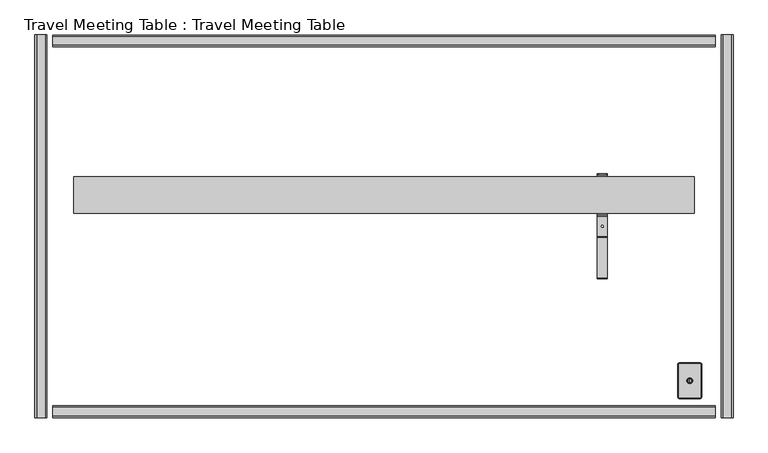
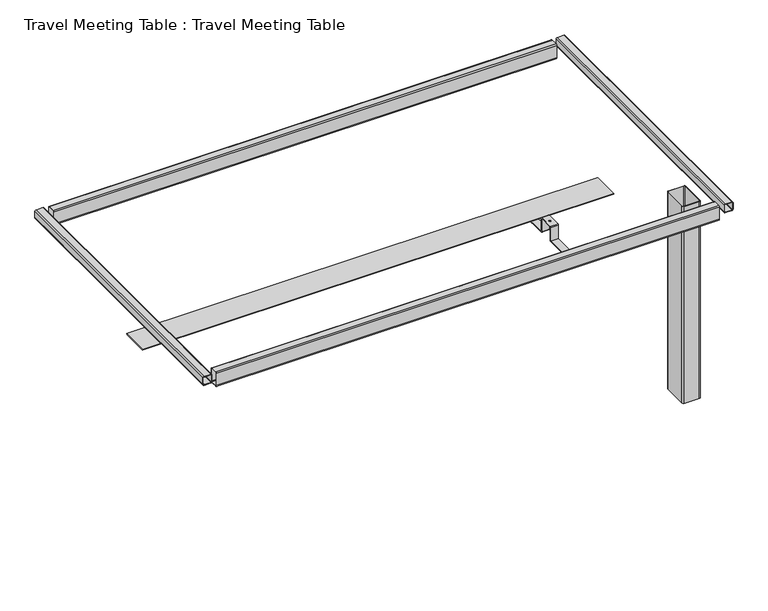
"""IFC4 building model written with IfcOpenShell, lengths in millimetres: furniture geometry, Travel Meeting Table : Travel Meeting Table."""

from ifc_helpers import new_model, si_unit, point, frame, frame_2d, origin, place, context, project, spatial, polyline, circle_curve, trimmed, segment, composite_curve, outline, extrude, source, transform, mapped, element, save
from ifc_brep_helpers import plane_surface, cylinder_surface, revolved_surface, advanced_brep


def travel_meeting_table_travel_meeting_table_b9e7bf96(model_context):
    return source(origin(), model_context, "Body", "SolidModel", [
        extrude(outline(composite_curve([segment(polyline([(668.9570653, 874.999984), (691.00002, 874.999984)]), True, "CONTINUOUS"), segment(trimmed(circle_curve(frame_2d((691.00002, 870.999984)), 4.0), [point((691.00002, 874.999984))], [point((695.00002, 870.999984))], False, "CARTESIAN"), True, "CONTINUOUS"), segment(polyline([(695.00002, 870.999984), (695.00002, 848.9999846)]), True, "CONTINUOUS"), segment(trimmed(circle_curve(frame_2d((691.00002, 848.9999846)), 4.0), [point((695.00002, 848.9999846))], [point((691.00002, 844.9999846))], False, "CARTESIAN"), True, "CONTINUOUS"), segment(polyline([(691.00002, 844.9999846), (669.0000343, 844.9999846)]), True, "CONTINUOUS"), segment(trimmed(circle_curve(frame_2d((669.0000343, 848.9999846)), 4.0), [point((669.0000343, 844.9999846))], [point((665.0000343, 848.9999846))], False, "CARTESIAN"), True, "CONTINUOUS"), segment(polyline([(665.0000343, 848.9999846), (665.0000343, 871.042953)]), True, "CONTINUOUS"), segment(trimmed(circle_curve(frame_2d((668.9570653, 871.042953)), 3.957031), [point((665.0000343, 871.042953))], [point((668.9570653, 874.999984))], False, "CARTESIAN"), True, "CONTINUOUS")], self_intersect=False), holes=[composite_curve([segment(trimmed(circle_curve(frame_2d((668.9570653, 871.042953)), 1.957031), [point((668.9570653, 872.999984))], [point((667.0000343, 871.042953))], True, "CARTESIAN"), True, "CONTINUOUS"), segment(polyline([(667.0000343, 871.042953), (667.0000343, 848.9999846)]), True, "CONTINUOUS"), segment(trimmed(circle_curve(frame_2d((669.0000343, 848.9999846)), 2.0), [point((667.0000343, 848.9999846))], [point((669.0000343, 846.9999846))], True, "CARTESIAN"), True, "CONTINUOUS"), segment(polyline([(669.0000343, 846.9999846), (691.00002, 846.9999846)]), True, "CONTINUOUS"), segment(trimmed(circle_curve(frame_2d((691.00002, 848.9999846)), 2.0), [point((691.00002, 846.9999846))], [point((693.00002, 848.9999846))], True, "CARTESIAN"), True, "CONTINUOUS"), segment(polyline([(693.00002, 848.9999846), (693.00002, 870.999984)]), True, "CONTINUOUS"), segment(trimmed(circle_curve(frame_2d((691.00002, 870.999984)), 2.0), [point((693.00002, 870.999984))], [point((691.00002, 872.999984))], True, "CARTESIAN"), True, "CONTINUOUS"), segment(polyline([(691.00002, 872.999984), (668.9570653, 872.999984)]), True, "CONTINUOUS")], self_intersect=False)]), frame((0.0, -480.0, 0.0), z_axis=(0.0, 1.0, 0.0), x_axis=(0.0, 0.0, 1.0)), (0.0, 0.0, 1.0), 960.0),
        extrude(outline(composite_curve([segment(trimmed(circle_curve(frame_2d((-475.7499794, 649.0000196)), 4.0), [point((-475.7499794, 645.0000196))], [point((-479.7499794, 649.0000196))], False, "CARTESIAN"), True, "CONTINUOUS"), segment(polyline([(-479.7499794, 649.0000196), (-479.7499794, 691.00002)]), True, "CONTINUOUS"), segment(trimmed(circle_curve(frame_2d((-475.7499794, 691.00002)), 4.0), [point((-479.7499794, 691.00002))], [point((-475.7499794, 695.00002))], False, "CARTESIAN"), True, "CONTINUOUS"), segment(polyline([(-475.7499794, 695.00002), (-453.7499937, 695.00002)]), True, "CONTINUOUS"), segment(trimmed(circle_curve(frame_2d((-453.7499937, 691.00002)), 4.0), [point((-453.7499937, 695.00002))], [point((-449.7499937, 691.00002))], False, "CARTESIAN"), True, "CONTINUOUS"), segment(polyline([(-449.7499937, 691.00002), (-449.7499937, 649.0000196)]), True, "CONTINUOUS"), segment(trimmed(circle_curve(frame_2d((-453.7499937, 649.0000196)), 4.0), [point((-449.7499937, 649.0000196))], [point((-453.7499937, 645.0000196))], False, "CARTESIAN"), True, "CONTINUOUS"), segment(polyline([(-453.7499937, 645.0000196), (-475.7499794, 645.0000196)]), True, "CONTINUOUS")], self_intersect=False), holes=[composite_curve([segment(polyline([(-475.7499794, 647.0000196), (-453.7499937, 647.0000196)]), True, "CONTINUOUS"), segment(trimmed(circle_curve(frame_2d((-453.7499937, 649.0000196)), 2.0), [point((-453.7499937, 647.0000196))], [point((-451.7499937, 649.0000196))], True, "CARTESIAN"), True, "CONTINUOUS"), segment(polyline([(-451.7499937, 649.0000196), (-451.7499937, 691.00002)]), True, "CONTINUOUS"), segment(trimmed(circle_curve(frame_2d((-453.7499937, 691.00002)), 2.0), [point((-451.7499937, 691.00002))], [point((-453.7499937, 693.00002))], True, "CARTESIAN"), True, "CONTINUOUS"), segment(polyline([(-453.7499937, 693.00002), (-475.7499794, 693.00002)]), True, "CONTINUOUS"), segment(trimmed(circle_curve(frame_2d((-475.7499794, 691.00002)), 2.0), [point((-475.7499794, 693.00002))], [point((-477.7499794, 691.00002))], True, "CARTESIAN"), True, "CONTINUOUS"), segment(polyline([(-477.7499794, 691.00002), (-477.7499794, 649.0000196)]), True, "CONTINUOUS"), segment(trimmed(circle_curve(frame_2d((-475.7499794, 649.0000196)), 2.0), [point((-477.7499794, 649.0000196))], [point((-475.7499794, 647.0000196))], True, "CARTESIAN"), True, "CONTINUOUS")], self_intersect=False)]), frame((-830.0, 0.0, 0.0), z_axis=(1.0, 0.0, 0.0), x_axis=(0.0, 1.0, 0.0)), (0.0, 0.0, 1.0), 1660.0),
        extrude(outline(composite_curve([segment(polyline([(668.9570653, -844.9999846), (691.00002, -844.9999846)]), True, "CONTINUOUS"), segment(trimmed(circle_curve(frame_2d((691.00002, -848.9999846)), 4.0), [point((691.00002, -844.9999846))], [point((695.00002, -848.9999846))], False, "CARTESIAN"), True, "CONTINUOUS"), segment(polyline([(695.00002, -848.9999846), (695.00002, -870.999984)]), True, "CONTINUOUS"), segment(trimmed(circle_curve(frame_2d((691.00002, -870.999984)), 4.0), [point((695.00002, -870.999984))], [point((691.00002, -874.999984))], False, "CARTESIAN"), True, "CONTINUOUS"), segment(polyline([(691.00002, -874.999984), (669.0000343, -874.999984)]), True, "CONTINUOUS"), segment(trimmed(circle_curve(frame_2d((669.0000343, -870.999984)), 4.0), [point((669.0000343, -874.999984))], [point((665.0000343, -870.999984))], False, "CARTESIAN"), True, "CONTINUOUS"), segment(polyline([(665.0000343, -870.999984), (665.0000343, -848.9570156)]), True, "CONTINUOUS"), segment(trimmed(circle_curve(frame_2d((668.9570653, -848.9570156)), 3.957031), [point((665.0000343, -848.9570156))], [point((668.9570653, -844.9999846))], False, "CARTESIAN"), True, "CONTINUOUS")], self_intersect=False), holes=[composite_curve([segment(trimmed(circle_curve(frame_2d((668.9570653, -848.9570156)), 1.957031), [point((668.9570653, -846.9999846))], [point((667.0000343, -848.9570156))], True, "CARTESIAN"), True, "CONTINUOUS"), segment(polyline([(667.0000343, -848.9570156), (667.0000343, -870.999984)]), True, "CONTINUOUS"), segment(trimmed(circle_curve(frame_2d((669.0000343, -870.999984)), 2.0), [point((667.0000343, -870.999984))], [point((669.0000343, -872.999984))], True, "CARTESIAN"), True, "CONTINUOUS"), segment(polyline([(669.0000343, -872.999984), (691.00002, -872.999984)]), True, "CONTINUOUS"), segment(trimmed(circle_curve(frame_2d((691.00002, -870.999984)), 2.0), [point((691.00002, -872.999984))], [point((693.00002, -870.999984))], True, "CARTESIAN"), True, "CONTINUOUS"), segment(polyline([(693.00002, -870.999984), (693.00002, -848.9999846)]), True, "CONTINUOUS"), segment(trimmed(circle_curve(frame_2d((691.00002, -848.9999846)), 2.0), [point((693.00002, -848.9999846))], [point((691.00002, -846.9999846))], True, "CARTESIAN"), True, "CONTINUOUS"), segment(polyline([(691.00002, -846.9999846), (668.9570653, -846.9999846)]), True, "CONTINUOUS")], self_intersect=False)]), frame((0.0, -480.0, 0.0), z_axis=(0.0, 1.0, 0.0), x_axis=(0.0, 0.0, 1.0)), (0.0, 0.0, 1.0), 960.0),
        extrude(outline(composite_curve([segment(trimmed(circle_curve(frame_2d((453.7499824, 649.0000196)), 4.0), [point((453.7499824, 645.0000196))], [point((449.7499824, 649.0000196))], False, "CARTESIAN"), True, "CONTINUOUS"), segment(polyline([(449.7499824, 649.0000196), (449.7499824, 691.00002)]), True, "CONTINUOUS"), segment(trimmed(circle_curve(frame_2d((453.7499824, 691.00002)), 4.0), [point((449.7499824, 691.00002))], [point((453.7499824, 695.00002))], False, "CARTESIAN"), True, "CONTINUOUS"), segment(polyline([(453.7499824, 695.00002), (475.7499681, 695.00002)]), True, "CONTINUOUS"), segment(trimmed(circle_curve(frame_2d((475.7499681, 691.00002)), 4.0), [point((475.7499681, 695.00002))], [point((479.7499681, 691.00002))], False, "CARTESIAN"), True, "CONTINUOUS"), segment(polyline([(479.7499681, 691.00002), (479.7499681, 649.0000196)]), True, "CONTINUOUS"), segment(trimmed(circle_curve(frame_2d((475.7499681, 649.0000196)), 4.0), [point((479.7499681, 649.0000196))], [point((475.7499681, 645.0000196))], False, "CARTESIAN"), True, "CONTINUOUS"), segment(polyline([(475.7499681, 645.0000196), (453.7499824, 645.0000196)]), True, "CONTINUOUS")], self_intersect=False), holes=[composite_curve([segment(polyline([(453.7499824, 647.0000196), (475.7499681, 647.0000196)]), True, "CONTINUOUS"), segment(trimmed(circle_curve(frame_2d((475.7499681, 649.0000196)), 2.0), [point((475.7499681, 647.0000196))], [point((477.7499681, 649.0000196))], True, "CARTESIAN"), True, "CONTINUOUS"), segment(polyline([(477.7499681, 649.0000196), (477.7499681, 691.00002)]), True, "CONTINUOUS"), segment(trimmed(circle_curve(frame_2d((475.7499681, 691.00002)), 2.0), [point((477.7499681, 691.00002))], [point((475.7499681, 693.00002))], True, "CARTESIAN"), True, "CONTINUOUS"), segment(polyline([(475.7499681, 693.00002), (453.7499824, 693.00002)]), True, "CONTINUOUS"), segment(trimmed(circle_curve(frame_2d((453.7499824, 691.00002)), 2.0), [point((453.7499824, 693.00002))], [point((451.7499824, 691.00002))], True, "CARTESIAN"), True, "CONTINUOUS"), segment(polyline([(451.7499824, 691.00002), (451.7499824, 649.0000196)]), True, "CONTINUOUS"), segment(trimmed(circle_curve(frame_2d((453.7499824, 649.0000196)), 2.0), [point((451.7499824, 649.0000196))], [point((453.7499824, 647.0000196))], True, "CARTESIAN"), True, "CONTINUOUS")], self_intersect=False)]), frame((-830.0, 0.0, 0.0), z_axis=(1.0, 0.0, 0.0), x_axis=(0.0, 1.0, 0.0)), (0.0, 0.0, 1.0), 1660.0),
        advanced_brep(
        [(796.3659522, -346.7334746, 695.0000198), (791.3659522, -341.7334746, 695.0000198), (741.3661261, -341.7334746, 695.0000198), (736.3661261, -346.7334746, 695.0000198), (736.3661261, -426.7334462, 695.0000198), (741.3661117, -431.7334317, 695.0000198), (791.3659522, -431.7334317, 695.0000198), (796.3659522, -426.7334317, 695.0000198), (738.3661261, -426.7334462, 695.0000198), (738.3661261, -346.7334746, 695.0000198), (741.3661261, -343.7334746, 695.0000198), (791.3659522, -343.7334746, 695.0000198), (794.3659522, -346.7334746, 695.0000198), (794.3659522, -426.7334317, 695.0000198), (791.3659522, -429.7334317, 695.0000198), (741.3661117, -429.7334317, 695.0000198), (796.3659522, -346.7334746, 8.4999967), (796.3659522, -426.7334317, 8.4999967), (791.3659522, -431.7334317, 8.4999967), (741.3661117, -431.7334317, 8.4999967), (736.3661261, -426.7334462, 8.4999967), (736.3661261, -346.7334746, 8.4999967), (741.3661261, -341.7334746, 8.4999967), (791.3659522, -341.7334746, 8.4999967), (738.3661261, -426.7334462, 8.4999967), (741.3661117, -429.7334317, 8.4999967), (791.3659522, -429.7334317, 8.4999967), (794.3659522, -426.7334317, 8.4999967), (794.3659522, -346.7334746, 8.4999967), (791.3659522, -343.7334746, 8.4999967), (741.3661261, -343.7334746, 8.4999967), (738.3661261, -346.7334746, 8.4999967), (738.3661261, -426.7334462, 17.6595378), (741.3661117, -429.7334317, 17.6595378), (741.3661117, -429.7334317, 21.9964673), (738.3661261, -426.7334462, 21.9964673), (791.3659522, -429.7334317, 17.6595378), (791.3659522, -429.7334317, 21.9964673), (794.3659522, -426.7334317, 17.6595378), (794.3659522, -426.7334317, 21.9964673), (794.3659522, -346.7334746, 17.6595378), (794.3659522, -346.7334746, 21.9964673), (791.3659522, -343.7334746, 17.6595378), (791.3659522, -343.7334746, 21.9964673), (741.3661261, -343.7334746, 17.6595378), (741.3661261, -343.7334746, 21.9964673), (738.3661261, -346.7334746, 17.6595378), (738.3661261, -346.7334746, 21.9964673), (766.3660392, -379.7271584, 21.9964673), (766.3660392, -393.7396752, 21.9964673), (766.3660392, -379.7271584, 17.6595378), (766.3660392, -393.7396752, 17.6595378)],
        [
            (0, 1, circle_curve(frame((791.3659522, -346.7334746, 695.0000198), z_axis=(0.0, 0.0, 1.0), x_axis=(-1.0, 0.0, 0.0)), 5.0)),
            (1, 2),
            (2, 3, circle_curve(frame((741.3661261, -346.7334746, 695.0000198), z_axis=(0.0, 0.0, 1.0), x_axis=(-1.0, 0.0, 0.0)), 5.0)),
            (3, 4),
            (4, 5, circle_curve(frame((741.3661117, -426.7334462, 695.0000198), z_axis=(0.0, 0.0, 1.0), x_axis=(-1.0, 0.0, 0.0)), 4.9999855)),
            (5, 6),
            (6, 7, circle_curve(frame((791.3659522, -426.7334317, 695.0000198), z_axis=(0.0, 0.0, 1.0), x_axis=(-1.0, 0.0, 0.0)), 5.0)),
            (7, 0),
            (8, 9),
            (9, 10, circle_curve(frame((741.3661261, -346.7334746, 695.0000198), z_axis=(0.0, 0.0, -1.0), x_axis=(-1.0, 0.0, 0.0)), 3.0)),
            (10, 11),
            (11, 12, circle_curve(frame((791.3659522, -346.7334746, 695.0000198), z_axis=(0.0, 0.0, -1.0), x_axis=(-1.0, 0.0, 0.0)), 3.0)),
            (12, 13),
            (13, 14, circle_curve(frame((791.3659522, -426.7334317, 695.0000198), z_axis=(0.0, 0.0, -1.0), x_axis=(-1.0, 0.0, 0.0)), 3.0)),
            (14, 15),
            (15, 8, circle_curve(frame((741.3661117, -426.7334462, 695.0000198), z_axis=(0.0, 0.0, -1.0), x_axis=(-1.0, 0.0, 0.0)), 2.9999855)),
            (16, 17),
            (17, 18, circle_curve(frame((791.3659522, -426.7334317, 8.4999967), z_axis=(0.0, 0.0, -1.0), x_axis=(-1.0, 0.0, 0.0)), 5.0)),
            (18, 19),
            (19, 20, circle_curve(frame((741.3661117, -426.7334462, 8.4999967), z_axis=(0.0, 0.0, -1.0), x_axis=(-1.0, 0.0, 0.0)), 4.9999855)),
            (20, 21),
            (21, 22, circle_curve(frame((741.3661261, -346.7334746, 8.4999967), z_axis=(0.0, 0.0, -1.0), x_axis=(-1.0, 0.0, 0.0)), 5.0)),
            (22, 23),
            (23, 16, circle_curve(frame((791.3659522, -346.7334746, 8.4999967), z_axis=(0.0, 0.0, -1.0), x_axis=(-1.0, 0.0, 0.0)), 5.0)),
            (24, 25, circle_curve(frame((741.3661117, -426.7334462, 8.4999967), z_axis=(0.0, 0.0, 1.0), x_axis=(-1.0, 0.0, 0.0)), 2.9999855)),
            (25, 26),
            (26, 27, circle_curve(frame((791.3659522, -426.7334317, 8.4999967), z_axis=(0.0, 0.0, 1.0), x_axis=(-1.0, 0.0, 0.0)), 3.0)),
            (27, 28),
            (28, 29, circle_curve(frame((791.3659522, -346.7334746, 8.4999967), z_axis=(0.0, 0.0, 1.0), x_axis=(-1.0, 0.0, 0.0)), 3.0)),
            (29, 30),
            (30, 31, circle_curve(frame((741.3661261, -346.7334746, 8.4999967), z_axis=(0.0, 0.0, 1.0), x_axis=(-1.0, 0.0, 0.0)), 3.0)),
            (31, 24),
            (7, 17),
            (16, 0),
            (6, 18),
            (5, 19),
            (4, 20),
            (3, 21),
            (2, 22),
            (1, 23),
            (24, 32),
            (32, 33, circle_curve(frame((741.3661117, -426.7334462, 17.6595378), z_axis=(0.0, 0.0, 1.0), x_axis=(-1.0, 0.0, 0.0)), 2.9999855)),
            (33, 25),
            (15, 34),
            (34, 35, circle_curve(frame((741.3661117, -426.7334462, 21.9964673), z_axis=(0.0, 0.0, -1.0), x_axis=(-1.0, 0.0, 0.0)), 2.9999855)),
            (35, 8),
            (33, 36),
            (36, 26),
            (14, 37),
            (37, 34),
            (36, 38, circle_curve(frame((791.3659522, -426.7334317, 17.6595378), z_axis=(0.0, 0.0, 1.0), x_axis=(-1.0, 0.0, 0.0)), 3.0)),
            (38, 27),
            (13, 39),
            (39, 37, circle_curve(frame((791.3659522, -426.7334317, 21.9964673), z_axis=(0.0, 0.0, -1.0), x_axis=(-1.0, 0.0, 0.0)), 3.0)),
            (38, 40),
            (40, 28),
            (12, 41),
            (41, 39),
            (40, 42, circle_curve(frame((791.3659522, -346.7334746, 17.6595378), z_axis=(0.0, 0.0, 1.0), x_axis=(-1.0, 0.0, 0.0)), 3.0)),
            (42, 29),
            (11, 43),
            (43, 41, circle_curve(frame((791.3659522, -346.7334746, 21.9964673), z_axis=(0.0, 0.0, -1.0), x_axis=(-1.0, 0.0, 0.0)), 3.0)),
            (42, 44),
            (44, 30),
            (10, 45),
            (45, 43),
            (44, 46, circle_curve(frame((741.3661261, -346.7334746, 17.6595378), z_axis=(0.0, 0.0, 1.0), x_axis=(-1.0, 0.0, 0.0)), 3.0)),
            (46, 31),
            (9, 47),
            (47, 45, circle_curve(frame((741.3661261, -346.7334746, 21.9964673), z_axis=(0.0, 0.0, -1.0), x_axis=(-1.0, 0.0, 0.0)), 3.0)),
            (35, 47),
            (46, 32),
            (48, 49, circle_curve(frame((766.3660392, -386.7334168, 21.9964673), z_axis=(0.0, 0.0, -1.0), x_axis=(0.0, 1.0, 0.0)), 7.0062584)),
            (49, 48, circle_curve(frame((766.3660392, -386.7334168, 21.9964673), z_axis=(0.0, 0.0, -1.0), x_axis=(0.0, 1.0, 0.0)), 7.0062584)),
            (50, 51, circle_curve(frame((766.3660392, -386.7334168, 17.6595378), z_axis=(0.0, 0.0, 1.0), x_axis=(0.0, 1.0, 0.0)), 7.0062584)),
            (51, 50, circle_curve(frame((766.3660392, -386.7334168, 17.6595378), z_axis=(0.0, 0.0, 1.0), x_axis=(0.0, 1.0, 0.0)), 7.0062584)),
            (49, 51),
            (50, 48),
        ],
        [
            plane_surface(frame((796.3659522, -426.7334462, 695.0000198), z_axis=(0.0, 0.0, 1.0), x_axis=(0.0, -1.0, 0.0))),
            plane_surface(frame((796.3659522, -426.7334462, 8.4999967), z_axis=(0.0, 0.0, -1.0), x_axis=(0.0, 1.0, 0.0))),
            plane_surface(frame((796.3659522, -346.7334746, 695.0000198), z_axis=(1.0, 0.0, 0.0), x_axis=(0.0, 0.0, -1.0))),
            cylinder_surface(frame((791.3659522, -426.7334317, 8.4999967), z_axis=(0.0, 0.0, 1.0), x_axis=(-1.0, 0.0, 0.0)), 5.0),
            plane_surface(frame((791.3659522, -431.7334317, 695.0000198), z_axis=(0.0, -1.0, 0.0), x_axis=(0.0, 0.0, -1.0))),
            cylinder_surface(frame((741.3661117, -426.7334462, 8.4999967), z_axis=(0.0, 0.0, 1.0), x_axis=(-1.0, 0.0, 0.0)), 4.9999855),
            plane_surface(frame((736.3661261, -426.7334462, 695.0000198), z_axis=(-1.0, 0.0, 0.0), x_axis=(0.0, 0.0, -1.0))),
            cylinder_surface(frame((741.3661261, -346.7334746, 8.4999967), z_axis=(0.0, 0.0, 1.0), x_axis=(-1.0, 0.0, 0.0)), 5.0),
            plane_surface(frame((741.3661261, -341.7334746, 695.0000198), z_axis=(0.0, 1.0, 0.0), x_axis=(0.0, 0.0, -1.0))),
            cylinder_surface(frame((791.3659522, -346.7334746, 8.4999967), z_axis=(0.0, 0.0, 1.0), x_axis=(-1.0, 0.0, 0.0)), 5.0),
            revolved_surface(polyline([(738.3661262, -426.7334462, 8.4999967), (738.3661262, -426.7334462, 17.6595378)]), (741.3661117, -426.7334462, 0.0), (0.0, 0.0, -1.0)),
            revolved_surface(polyline([(738.3661262, -426.7334462, 21.9964673), (738.3661262, -426.7334462, 695.0000198)]), (741.3661117, -426.7334462, 0.0), (0.0, 0.0, -1.0)),
            plane_surface(frame((741.3661117, -429.7334317, 695.0000198), z_axis=(0.0, 1.0, 0.0), x_axis=(0.0, 0.0, -1.0))),
            revolved_surface(polyline([(788.3659522, -426.7334317, 8.4999967), (788.3659522, -426.7334317, 17.6595378)]), (791.3659522, -426.7334317, 0.0), (0.0, 0.0, -1.0)),
            revolved_surface(polyline([(788.3659522, -426.7334317, 21.9964673), (788.3659522, -426.7334317, 695.0000198)]), (791.3659522, -426.7334317, 0.0), (0.0, 0.0, -1.0)),
            plane_surface(frame((794.3659522, -426.7334317, 695.0000198), z_axis=(-1.0, 0.0, 0.0), x_axis=(0.0, 0.0, -1.0))),
            revolved_surface(polyline([(788.3659522, -346.7334746, 8.4999967), (788.3659522, -346.7334746, 17.6595378)]), (791.3659522, -346.7334746, 0.0), (0.0, 0.0, -1.0)),
            revolved_surface(polyline([(788.3659522, -346.7334746, 21.9964673), (788.3659522, -346.7334746, 695.0000198)]), (791.3659522, -346.7334746, 0.0), (0.0, 0.0, -1.0)),
            plane_surface(frame((791.3659522, -343.7334746, 695.0000198), z_axis=(0.0, -1.0, 0.0), x_axis=(0.0, 0.0, -1.0))),
            revolved_surface(polyline([(738.3661261, -346.7334746, 8.4999967), (738.3661261, -346.7334746, 17.6595378)]), (741.3661261, -346.7334746, 0.0), (0.0, 0.0, -1.0)),
            revolved_surface(polyline([(738.3661261, -346.7334746, 21.9964673), (738.3661261, -346.7334746, 695.0000198)]), (741.3661261, -346.7334746, 0.0), (0.0, 0.0, -1.0)),
            plane_surface(frame((738.3661261, -346.7334746, 695.0000198), z_axis=(1.0, 0.0, 0.0), x_axis=(0.0, 0.0, -1.0))),
            plane_surface(frame((794.3659522, -426.7334317, 21.9964673), z_axis=(0.0, 0.0, 1.0), x_axis=(0.0, -1.0, 0.0))),
            plane_surface(frame((794.3659522, -426.7334317, 17.6595378), z_axis=(0.0, 0.0, -1.0), x_axis=(0.0, 1.0, 0.0))),
            revolved_surface(polyline([(766.3660392, -379.7271584, 17.6595378), (766.3660392, -379.7271584, 21.9964673)]), (766.3660392, -386.7334168, 0.0), (0.0, 0.0, -1.0)),
        ],
        [
            (0, [[1, 2, 3, 4, 5, 6, 7, 8], [9, 10, 11, 12, 13, 14, 15, 16]]),
            (1, [[17, 18, 19, 20, 21, 22, 23, 24], [25, 26, 27, 28, 29, 30, 31, 32]]),
            (2, [[33, -17, 34, -8]]),
            (3, [[35, -18, -33, -7]]),
            (4, [[36, -19, -35, -6]]),
            (5, [[37, -20, -36, -5]]),
            (6, [[38, -21, -37, -4]]),
            (7, [[39, -22, -38, -3]]),
            (8, [[40, -23, -39, -2]]),
            (9, [[-34, -24, -40, -1]]),
            (10, [[41, 42, 43, -25]]),
            (11, [[44, 45, 46, -16]]),
            (12, [[-43, 47, 48, -26]]),
            (12, [[49, 50, -44, -15]]),
            (13, [[-48, 51, 52, -27]]),
            (14, [[53, 54, -49, -14]]),
            (15, [[-52, 55, 56, -28]]),
            (15, [[57, 58, -53, -13]]),
            (16, [[-56, 59, 60, -29]]),
            (17, [[61, 62, -57, -12]]),
            (18, [[-60, 63, 64, -30]]),
            (18, [[65, 66, -61, -11]]),
            (19, [[-64, 67, 68, -31]]),
            (20, [[69, 70, -65, -10]]),
            (21, [[-46, 71, -69, -9]]),
            (21, [[-68, 72, -41, -32]]),
            (22, [[-50, -54, -58, -62, -66, -70, -71, -45], [73, 74]]),
            (23, [[-72, -67, -63, -59, -55, -51, -47, -42], [75, 76]]),
            (24, [[77, -75, 78, -74]]),
            (24, [[-78, -76, -77, -73]]),
        ],
    ),
        advanced_brep(
        [(766.3660392, -411.7350884, 4.0), (766.3660392, -406.7363383, 0.0), (766.3660392, -366.7304953, 0.0), (766.3660392, -361.7317452, 4.0), (766.3660392, -411.7350884, 6.0), (766.3660392, -361.7317452, 6.0), (766.3660392, -393.7396752, 12.5000001), (766.3660392, -379.7271584, 12.5000001), (766.3660392, -390.7318646, 12.5000001), (766.3660392, -382.734969, 12.5000001), (766.3660392, -390.7318646, 21.9964673), (766.3660392, -382.734969, 21.9964673), (766.3660392, -386.7334168, 21.9964673), (766.3660392, -386.7334168, 0.0)],
        [
            (0, 1),
            (1, 2, circle_curve(frame((766.3660392, -386.7334168, 0.0), z_axis=(0.0, 0.0, 1.0), x_axis=(0.0, 1.0, 0.0)), 20.0029215)),
            (2, 3),
            (3, 0, circle_curve(frame((766.3660392, -386.7334168, 4.0), z_axis=(0.0, 0.0, -1.0), x_axis=(0.0, 1.0, 0.0)), 25.0016716)),
            (2, 1, circle_curve(frame((766.3660392, -386.7334168, 0.0), z_axis=(0.0, 0.0, 1.0), x_axis=(0.0, 1.0, 0.0)), 20.0029215)),
            (0, 3, circle_curve(frame((766.3660392, -386.7334168, 4.0), z_axis=(0.0, 0.0, -1.0), x_axis=(0.0, 1.0, 0.0)), 25.0016716)),
            (4, 0),
            (3, 5),
            (5, 4, circle_curve(frame((766.3660392, -386.7334168, 6.0), z_axis=(0.0, 0.0, -1.0), x_axis=(0.0, 1.0, 0.0)), 25.0016716)),
            (4, 5, circle_curve(frame((766.3660392, -386.7334168, 6.0), z_axis=(0.0, 0.0, -1.0), x_axis=(0.0, 1.0, 0.0)), 25.0016716)),
            (6, 4),
            (5, 7),
            (7, 6, circle_curve(frame((766.3660392, -386.7334168, 12.5000001), z_axis=(0.0, 0.0, -1.0), x_axis=(0.0, 1.0, 0.0)), 7.0062584)),
            (6, 7, circle_curve(frame((766.3660392, -386.7334168, 12.5000001), z_axis=(0.0, 0.0, -1.0), x_axis=(0.0, 1.0, 0.0)), 7.0062584)),
            (8, 6),
            (7, 9),
            (9, 8, circle_curve(frame((766.3660392, -386.7334168, 12.5000001), z_axis=(0.0, 0.0, -1.0), x_axis=(0.0, 1.0, 0.0)), 3.9984478)),
            (8, 9, circle_curve(frame((766.3660392, -386.7334168, 12.5000001), z_axis=(0.0, 0.0, -1.0), x_axis=(0.0, 1.0, 0.0)), 3.9984478)),
            (10, 8),
            (9, 11),
            (11, 10, circle_curve(frame((766.3660392, -386.7334168, 21.9964673), z_axis=(0.0, 0.0, -1.0), x_axis=(0.0, 1.0, 0.0)), 3.9984478)),
            (10, 11, circle_curve(frame((766.3660392, -386.7334168, 21.9964673), z_axis=(0.0, 0.0, -1.0), x_axis=(0.0, 1.0, 0.0)), 3.9984478)),
            (12, 10),
            (11, 12),
            (1, 13),
            (13, 2),
        ],
        [
            revolved_surface(polyline([(766.3660392, -366.7304953, 0.0), (766.3660392, -361.7317452, 4.0)]), (766.3660392, -386.7334168, 21.9964673), (0.0, 0.0, 1.0)),
            cylinder_surface(frame((766.3660392, -386.7334168, 21.9964673), z_axis=(0.0, 0.0, 1.0), x_axis=(0.0, 1.0, 0.0)), 25.0016716),
            revolved_surface(polyline([(766.3660392, -361.7317452, 6.0), (766.3660392, -379.7271584, 12.5000001)]), (766.3660392, -386.7334168, 21.9964673), (0.0, 0.0, 1.0)),
            plane_surface(frame((766.3660392, -386.7334168, 12.5000001), z_axis=(0.0, 0.0, 1.0), x_axis=(0.0, 1.0, 0.0))),
            cylinder_surface(frame((766.3660392, -386.7334168, 21.9964673), z_axis=(0.0, 0.0, 1.0), x_axis=(0.0, 1.0, 0.0)), 3.9984478),
            plane_surface(frame((766.3660392, -386.7334168, 21.9964673), z_axis=(0.0, 0.0, 1.0), x_axis=(0.0, 1.0, 0.0))),
            plane_surface(frame((766.3660392, -386.7334168, 0.0), z_axis=(0.0, 0.0, -1.0), x_axis=(0.0, 1.0, 0.0))),
        ],
        [
            (0, [[1, 2, 3, 4]]),
            (0, [[-3, 5, -1, 6]]),
            (1, [[7, -4, 8, 9]]),
            (1, [[-8, -6, -7, 10]]),
            (2, [[11, -9, 12, 13]]),
            (2, [[-12, -10, -11, 14]]),
            (3, [[15, -13, 16, 17]]),
            (3, [[-16, -14, -15, 18]]),
            (4, [[19, -17, 20, 21]]),
            (4, [[-20, -18, -19, 22]]),
            (5, [[23, -21, 24]]),
            (5, [[-24, -22, -23]]),
            (6, [[25, 26, -2]]),
            (6, [[-26, -25, -5]]),
        ],
    ),
        advanced_brep(
        [(557.6999638, -131.4999675, 431.4999699), (536.7000362, -131.4999675, 431.4999699), (534.7000362, -131.4999675, 429.4999699), (534.7000362, -131.4999675, 401.4999478), (559.6999638, -131.4999675, 401.4999478), (559.6999638, -131.4999675, 429.4999699), (547.1998547, -131.4999675, 418.9999698), (547.1998547, -131.4999675, 413.9999479), (557.6999638, -129.3349834, 431.4999699), (559.6999638, -129.3349834, 429.4999699), (559.6999638, -129.3349834, 401.4999478), (534.7000362, -129.3349834, 401.4999478), (534.7000362, -129.3349834, 429.4999699), (536.7000362, -129.3349834, 431.4999699), (547.1998547, -129.3349834, 418.9999698), (547.1998547, -129.3349834, 413.9999479), (559.6999638, -129.4999806, 399.4999609), (559.6999638, -27.4999929, 399.4999609), (559.6999638, -25.500006, 401.4999478), (559.6999638, -25.4999696, 449.4999613), (559.6999638, 25.454333, 449.4999613), (559.6999638, 25.454333, 401.4999478), (559.6999638, 27.4543562, 399.4999609), (559.6999638, 129.4543439, 399.4999609), (559.6999638, 131.4543309, 401.4999478), (559.6999638, 131.4543309, 429.4999699), (559.6999638, 129.2893467, 429.4999699), (559.6999638, 129.2893467, 401.4999478), (559.6999638, 27.4543562, 401.4999478), (559.6999638, 27.4543562, 449.4999249), (559.6999638, 25.454333, 451.4999482), (559.6999638, -25.4999696, 451.4999482), (559.6999638, -27.4999929, 449.4999249), (559.6999638, -27.4999929, 401.4999478), (534.7000362, -27.4999929, 401.4999478), (534.7000362, -27.4999929, 449.4999249), (534.7000362, -25.4999696, 451.4999482), (534.7000362, 25.454333, 451.4999482), (534.7000362, 27.4543562, 449.4999249), (534.7000362, 27.4543562, 401.4999478), (534.7000362, 129.2893467, 401.4999478), (534.7000362, 129.2893467, 429.4999699), (534.7000362, 131.4543309, 429.4999699), (534.7000362, 131.4543309, 401.4999478), (534.7000362, 129.4543439, 399.4999609), (534.7000362, 27.4543562, 399.4999609), (534.7000362, 25.4543693, 401.4999478), (534.7000362, 25.454333, 449.4999613), (534.7000362, -25.4999696, 449.4999613), (534.7000362, -25.4999696, 401.4999478), (534.7000362, -27.4999929, 399.4999609), (534.7000362, -129.4999806, 399.4999609), (557.6999638, 131.4543309, 431.4999699), (536.7000362, 131.4543309, 431.4999699), (547.1998547, 131.4543309, 418.9999698), (547.1998547, 131.4543309, 413.9999479), (557.6999638, 129.2893467, 431.4999699), (536.7000362, 129.2893467, 431.4999699), (547.1998547, 129.2893467, 418.9999698), (547.1998547, 129.2893467, 413.9999479), (549.6903888, 0.0232087, 451.4999482), (544.6903888, 0.0232087, 451.4999482), (549.6903888, 0.0232087, 449.4999613), (544.6903888, 0.0232087, 449.4999613)],
        [
            (0, 1),
            (1, 2, circle_curve(frame((536.7000362, -131.4999675, 429.4999699), z_axis=(0.0, -1.0, 0.0), x_axis=(0.0, 0.0, -1.0)), 2.0)),
            (2, 3),
            (3, 4),
            (4, 5),
            (5, 0, circle_curve(frame((557.6999638, -131.4999675, 429.4999699), z_axis=(0.0, -1.0, 0.0), x_axis=(0.0, 0.0, -1.0)), 2.0)),
            (6, 7, circle_curve(frame((547.1998547, -131.4999675, 416.4999588), z_axis=(0.0, 1.0, 0.0), x_axis=(0.0, 0.0, -1.0)), 2.5000109)),
            (7, 6, circle_curve(frame((547.1998547, -131.4999675, 416.4999588), z_axis=(0.0, 1.0, 0.0), x_axis=(0.0, 0.0, -1.0)), 2.5000109)),
            (8, 9, circle_curve(frame((557.6999638, -129.3349834, 429.4999699), z_axis=(0.0, 1.0, 0.0), x_axis=(0.0, 0.0, -1.0)), 2.0)),
            (9, 10),
            (10, 11),
            (11, 12),
            (12, 13, circle_curve(frame((536.7000362, -129.3349834, 429.4999699), z_axis=(0.0, 1.0, 0.0), x_axis=(0.0, 0.0, -1.0)), 2.0)),
            (13, 8),
            (14, 15, circle_curve(frame((547.1998547, -129.3349834, 416.4999588), z_axis=(0.0, -1.0, 0.0), x_axis=(0.0, 0.0, -1.0)), 2.5000109)),
            (15, 14, circle_curve(frame((547.1998547, -129.3349834, 416.4999588), z_axis=(0.0, -1.0, 0.0), x_axis=(0.0, 0.0, -1.0)), 2.5000109)),
            (5, 9),
            (8, 0),
            (4, 16, circle_curve(frame((559.6999638, -129.4999806, 401.4999478), z_axis=(1.0, 0.0, 0.0), x_axis=(0.0, 1.0, 0.0)), 1.9999869)),
            (16, 17),
            (17, 18, circle_curve(frame((559.6999638, -27.4999929, 401.4999478), z_axis=(1.0, 0.0, 0.0), x_axis=(0.0, -1.0, 0.0)), 1.9999869)),
            (18, 19),
            (19, 20),
            (20, 21),
            (21, 22, circle_curve(frame((559.6999638, 27.4543562, 401.4999478), z_axis=(1.0, 0.0, 0.0), x_axis=(0.0, 1.0, 0.0)), 1.9999869)),
            (22, 23),
            (23, 24, circle_curve(frame((559.6999638, 129.4543439, 401.4999478), z_axis=(1.0, 0.0, 0.0), x_axis=(0.0, -1.0, 0.0)), 1.9999869)),
            (24, 25),
            (25, 26),
            (26, 27),
            (27, 28),
            (28, 29),
            (29, 30, circle_curve(frame((559.6999638, 25.454333, 449.4999249), z_axis=(1.0, 0.0, 0.0), x_axis=(0.0, -1.0, 0.0)), 2.0000233)),
            (30, 31),
            (31, 32, circle_curve(frame((559.6999638, -25.4999696, 449.4999249), z_axis=(1.0, 0.0, 0.0), x_axis=(0.0, 1.0, 0.0)), 2.0000233)),
            (32, 33),
            (33, 10),
            (2, 12),
            (11, 34),
            (34, 35),
            (35, 36, circle_curve(frame((534.7000362, -25.4999696, 449.4999249), z_axis=(-1.0, 0.0, 0.0), x_axis=(0.0, 1.0, 0.0)), 2.0000233)),
            (36, 37),
            (37, 38, circle_curve(frame((534.7000362, 25.454333, 449.4999249), z_axis=(-1.0, 0.0, 0.0), x_axis=(0.0, -1.0, 0.0)), 2.0000233)),
            (38, 39),
            (39, 40),
            (40, 41),
            (41, 42),
            (42, 43),
            (43, 44, circle_curve(frame((534.7000362, 129.4543439, 401.4999478), z_axis=(-1.0, 0.0, 0.0), x_axis=(0.0, -1.0, 0.0)), 1.9999869)),
            (44, 45),
            (45, 46, circle_curve(frame((534.7000362, 27.4543562, 401.4999478), z_axis=(-1.0, 0.0, 0.0), x_axis=(0.0, 1.0, 0.0)), 1.9999869)),
            (46, 47),
            (47, 48),
            (48, 49),
            (49, 50, circle_curve(frame((534.7000362, -27.4999929, 401.4999478), z_axis=(-1.0, 0.0, 0.0), x_axis=(0.0, -1.0, 0.0)), 1.9999869)),
            (50, 51),
            (51, 3, circle_curve(frame((534.7000362, -129.4999806, 401.4999478), z_axis=(-1.0, 0.0, 0.0), x_axis=(0.0, 1.0, 0.0)), 1.9999869)),
            (1, 13),
            (7, 15),
            (14, 6),
            (50, 17),
            (16, 51),
            (49, 18),
            (33, 34),
            (48, 19),
            (35, 32),
            (31, 36),
            (43, 24),
            (23, 44),
            (27, 40),
            (39, 28),
            (38, 29),
            (37, 30),
            (20, 47),
            (46, 21),
            (45, 22),
            (52, 25, circle_curve(frame((557.6999638, 131.4543309, 429.4999699), z_axis=(0.0, 1.0, 0.0), x_axis=(0.0, 0.0, -1.0)), 2.0)),
            (42, 53, circle_curve(frame((536.7000362, 131.4543309, 429.4999699), z_axis=(0.0, 1.0, 0.0), x_axis=(0.0, 0.0, -1.0)), 2.0)),
            (53, 52),
            (54, 55, circle_curve(frame((547.1998547, 131.4543309, 416.4999588), z_axis=(0.0, -1.0, 0.0), x_axis=(0.0, 0.0, -1.0)), 2.5000109)),
            (55, 54, circle_curve(frame((547.1998547, 131.4543309, 416.4999588), z_axis=(0.0, -1.0, 0.0), x_axis=(0.0, 0.0, -1.0)), 2.5000109)),
            (56, 57),
            (57, 41, circle_curve(frame((536.7000362, 129.2893467, 429.4999699), z_axis=(0.0, -1.0, 0.0), x_axis=(0.0, 0.0, -1.0)), 2.0)),
            (26, 56, circle_curve(frame((557.6999638, 129.2893467, 429.4999699), z_axis=(0.0, -1.0, 0.0), x_axis=(0.0, 0.0, -1.0)), 2.0)),
            (58, 59, circle_curve(frame((547.1998547, 129.2893467, 416.4999588), z_axis=(0.0, 1.0, 0.0), x_axis=(0.0, 0.0, -1.0)), 2.5000109)),
            (59, 58, circle_curve(frame((547.1998547, 129.2893467, 416.4999588), z_axis=(0.0, 1.0, 0.0), x_axis=(0.0, 0.0, -1.0)), 2.5000109)),
            (52, 56),
            (57, 53),
            (54, 58),
            (59, 55),
            (60, 61, circle_curve(frame((547.1903888, 0.0232087, 451.4999482), z_axis=(0.0, 0.0, -1.0), x_axis=(-1.0, 0.0, 0.0)), 2.5)),
            (61, 60, circle_curve(frame((547.1903888, 0.0232087, 451.4999482), z_axis=(0.0, 0.0, -1.0), x_axis=(-1.0, 0.0, 0.0)), 2.5)),
            (62, 63, circle_curve(frame((547.1903888, 0.0232087, 449.4999613), z_axis=(0.0, 0.0, 1.0), x_axis=(-1.0, 0.0, 0.0)), 2.5)),
            (63, 62, circle_curve(frame((547.1903888, 0.0232087, 449.4999613), z_axis=(0.0, 0.0, 1.0), x_axis=(-1.0, 0.0, 0.0)), 2.5)),
            (61, 63),
            (62, 60),
        ],
        [
            plane_surface(frame((557.6999638, -131.4999675, 427.4999699), z_axis=(0.0, -1.0, 0.0), x_axis=(-1.0, 0.0, 0.0))),
            plane_surface(frame((557.6999638, -129.3349834, 427.4999699), z_axis=(0.0, 1.0, 0.0), x_axis=(1.0, 0.0, 0.0))),
            cylinder_surface(frame((557.6999638, -129.3349834, 429.4999699), z_axis=(0.0, -1.0, 0.0), x_axis=(0.0, 0.0, -1.0)), 2.0),
            plane_surface(frame((559.6999638, -131.4999675, 429.4999699), z_axis=(1.0, 0.0, 0.0), x_axis=(0.0, 1.0, 0.0))),
            plane_surface(frame((534.7000362, -131.4999675, 401.4999478), z_axis=(-1.0, 0.0, 0.0), x_axis=(0.0, 1.0, 0.0))),
            cylinder_surface(frame((536.7000362, -129.3349834, 429.4999699), z_axis=(0.0, -1.0, 0.0), x_axis=(0.0, 0.0, -1.0)), 2.0),
            plane_surface(frame((536.7000362, -131.4999675, 431.4999699), z_axis=(0.0, 0.0, 1.0), x_axis=(0.0, 1.0, 0.0))),
            revolved_surface(polyline([(547.1998547, -129.3349834, 413.9999479), (547.1998547, -131.4999675, 413.9999479)]), (547.1998547, -27.4999929, 416.4999588), (0.0, 1.0, 0.0)),
            plane_surface(frame((534.7000362, -129.4999806, 399.4999609), z_axis=(0.0, 0.0, -1.0), x_axis=(1.0, 0.0, 0.0))),
            cylinder_surface(frame((559.6999638, -27.4999929, 401.4999478), z_axis=(-1.0, 0.0, 0.0), x_axis=(0.0, -1.0, 0.0)), 1.9999869),
            plane_surface(frame((534.7000362, -27.4999929, 401.4999478), z_axis=(0.0, 0.0, 1.0), x_axis=(1.0, 0.0, 0.0))),
            cylinder_surface(frame((559.6999638, -129.4999806, 401.4999478), z_axis=(-1.0, 0.0, 0.0), x_axis=(0.0, 1.0, 0.0)), 1.9999869),
            plane_surface(frame((534.7000362, -25.4999696, 401.4999478), z_axis=(0.0, 1.0, 0.0), x_axis=(1.0, 0.0, 0.0))),
            cylinder_surface(frame((559.6999638, -25.4999696, 449.4999249), z_axis=(-1.0, 0.0, 0.0), x_axis=(0.0, 1.0, 0.0)), 2.0000233),
            plane_surface(frame((534.7000362, -27.4999929, 449.4999249), z_axis=(0.0, -1.0, 0.0), x_axis=(1.0, 0.0, 0.0))),
            cylinder_surface(frame((300.4670952, 129.4543439, 401.4999478), z_axis=(-1.0, 0.0, 0.0), x_axis=(0.0, -1.0, 0.0)), 1.9999869),
            plane_surface(frame((534.7000362, 131.4543309, 401.4999478), z_axis=(0.0, 0.0, 1.0), x_axis=(1.0, 0.0, 0.0))),
            plane_surface(frame((534.7000362, 27.4543562, 401.4999478), z_axis=(0.0, 1.0, 0.0), x_axis=(1.0, 0.0, 0.0))),
            cylinder_surface(frame((300.4670952, 25.454333, 449.4999249), z_axis=(-1.0, 0.0, 0.0), x_axis=(0.0, -1.0, 0.0)), 2.0000233),
            plane_surface(frame((534.7000362, 25.454333, 451.4999482), z_axis=(0.0, -1.0, 0.0), x_axis=(1.0, 0.0, 0.0))),
            cylinder_surface(frame((300.4670952, 27.4543562, 401.4999478), z_axis=(-1.0, 0.0, 0.0), x_axis=(0.0, 1.0, 0.0)), 1.9999869),
            plane_surface(frame((534.7000362, 27.4543562, 399.4999609), z_axis=(0.0, 0.0, -1.0), x_axis=(1.0, 0.0, 0.0))),
            plane_surface(frame((536.6999142, 131.4543309, 431.4999699), z_axis=(0.0, 1.0, 0.0), x_axis=(-1.0, 0.0, 0.0))),
            plane_surface(frame((536.6999142, 129.2893467, 431.4999699), z_axis=(0.0, -1.0, 0.0), x_axis=(1.0, 0.0, 0.0))),
            cylinder_surface(frame((557.6999638, 129.2893467, 429.4999699), z_axis=(0.0, 1.0, 0.0), x_axis=(0.0, 0.0, -1.0)), 2.0),
            cylinder_surface(frame((536.7000362, 129.2893467, 429.4999699), z_axis=(0.0, 1.0, 0.0), x_axis=(0.0, 0.0, -1.0)), 2.0),
            plane_surface(frame((557.6999638, 131.4543309, 431.4999699), z_axis=(0.0, 0.0, 1.0), x_axis=(0.0, -1.0, 0.0))),
            revolved_surface(polyline([(547.1998547, 129.2893467, 413.9999479), (547.1998547, 131.4543309, 413.9999479)]), (547.1998547, 27.4543562, 416.4999588), (0.0, -1.0, 0.0)),
            plane_surface(frame((534.7000362, -25.4999696, 451.4999482), z_axis=(0.0, 0.0, 1.0), x_axis=(-1.0, 0.0, 0.0))),
            plane_surface(frame((534.7000362, -25.4999696, 449.4999613), z_axis=(0.0, 0.0, -1.0), x_axis=(1.0, 0.0, 0.0))),
            revolved_surface(polyline([(544.6903888, 0.0232087, 449.4999613), (544.6903888, 0.0232087, 451.4999482)]), (547.1903888, 0.0232087, -19.0000394), (0.0, 0.0, -1.0)),
        ],
        [
            (0, [[1, 2, 3, 4, 5, 6], [7, 8]]),
            (1, [[9, 10, 11, 12, 13, 14], [15, 16]]),
            (2, [[17, -9, 18, -6]]),
            (3, [[19, 20, 21, 22, 23, 24, 25, 26, 27, 28, 29, 30, 31, 32, 33, 34, 35, 36, 37, -10, -17, -5]]),
            (4, [[38, -12, 39, 40, 41, 42, 43, 44, 45, 46, 47, 48, 49, 50, 51, 52, 53, 54, 55, 56, 57, -3]]),
            (5, [[58, -13, -38, -2]]),
            (6, [[-18, -14, -58, -1]]),
            (7, [[59, -15, 60, -8]]),
            (7, [[-60, -16, -59, -7]]),
            (8, [[61, -20, 62, -56]]),
            (9, [[63, -21, -61, -55]]),
            (10, [[-39, -11, -37, 64]]),
            (11, [[-62, -19, -4, -57]]),
            (12, [[-54, 65, -22, -63]]),
            (13, [[66, -35, 67, -41]]),
            (14, [[-64, -36, -66, -40]]),
            (15, [[68, -27, 69, -49]]),
            (16, [[-31, 70, -45, 71]]),
            (17, [[72, -32, -71, -44]]),
            (18, [[73, -33, -72, -43]]),
            (19, [[-24, 74, -52, 75]]),
            (20, [[76, -25, -75, -51]]),
            (21, [[-69, -26, -76, -50]]),
            (22, [[77, -28, -68, -48, 78, 79], [80, 81]]),
            (23, [[82, 83, -46, -70, -30, 84], [85, 86]]),
            (24, [[87, -84, -29, -77]]),
            (25, [[-47, -83, 88, -78]]),
            (26, [[-88, -82, -87, -79]]),
            (27, [[89, -86, 90, -80]]),
            (27, [[-90, -85, -89, -81]]),
            (28, [[-67, -34, -73, -42], [91, 92]]),
            (29, [[-65, -53, -74, -23], [93, 94]]),
            (30, [[95, -93, 96, -92]]),
            (30, [[-96, -94, -95, -91]]),
        ],
    ),
        extrude(outline(polyline([(123.9350224, 445.9399678), (123.9350224, 444.2399626), (120.6350785, 444.2399626), (120.6350785, 442.7399451), (36.2000433, 442.7399451), (36.2000433, 444.2399626), (32.9000994, 444.2399626), (32.9000994, 445.9399678), (123.9350224, 445.9399678)])), frame((-777.5, 0.0, 0.0), z_axis=(1.0, 0.0, 0.0), x_axis=(0.0, 1.0, 0.0)), (0.0, 0.0, 1.0), 1555.0),
        extrude(outline(polyline([(93.825087, 443.539969), (93.825087, 405.039957), (112.3250479, 405.039957), (112.3250479, 403.5399396), (92.3250332, 403.5399396), (92.3250332, 443.539969), (93.825087, 443.539969)])), frame((-647.4997955, 0.0, 0.0), z_axis=(1.0, 0.0, 0.0), x_axis=(0.0, 1.0, 0.0)), (0.0, 0.0, 1.0), 1294.9995911),
    ])


if __name__ == "__main__":
    model = new_model("IFC4")
    model_context = context("Model", 3, world=origin())
    ifc_project = project(units=[si_unit("LENGTHUNIT", "METRE", prefix="MILLI")], contexts=[model_context])
    site = spatial("IfcSite", under=ifc_project)
    building = spatial("IfcBuilding", under=site)
    placement = place(None, origin())
    travel_meeting_table_travel_meeting_table_shape = travel_meeting_table_travel_meeting_table_b9e7bf96(model_context)
    element("IfcFurniture", 1, ObjectType="Travel Meeting Table : Travel Meeting Table", at=placement, inside=building, context=model_context, shape_type="MappedRepresentation", body=[
        mapped(travel_meeting_table_travel_meeting_table_shape, transform((0.0, 0.0, 0.0), x_axis=(1.0, 0.0, 0.0), y_axis=(0.0, 1.0, 0.0), z_axis=(0.0, 0.0, 1.0))),
    ])
    save(model, "model.ifc")
